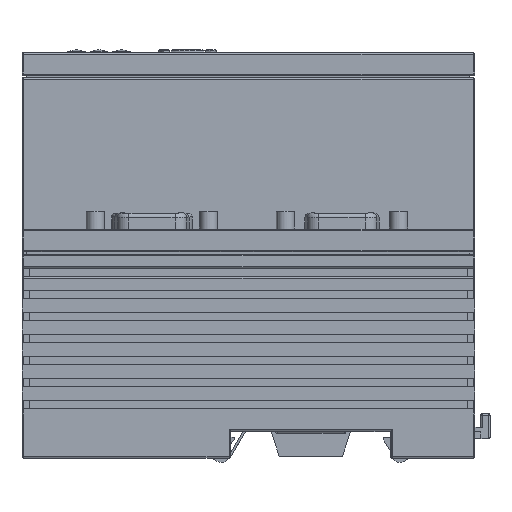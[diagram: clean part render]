
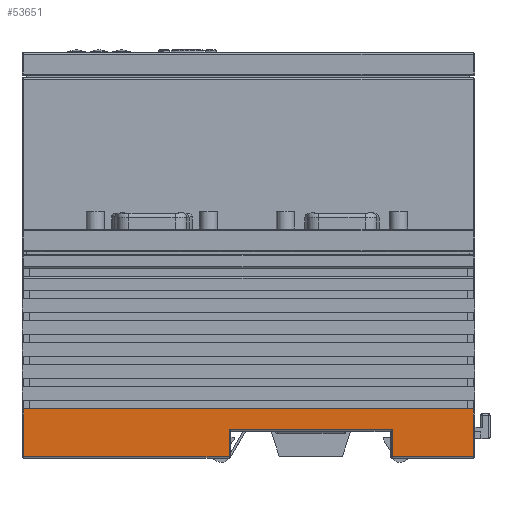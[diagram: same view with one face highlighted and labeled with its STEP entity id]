
A CAD part, left-side view. The second image highlights one B-rep face of the part: STEP entity #53651.
In plain terms, the highlighted planar face has unit normal (-1, 0, 0).
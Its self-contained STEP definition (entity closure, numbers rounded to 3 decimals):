
#4048=FACE_OUTER_BOUND('',#7098,.T.);
#7098=EDGE_LOOP('',(#34699,#34700,#34701,#34702,#34703,#34704,#34705,#34706));
#10208=LINE('',#78832,#15671);
#10215=LINE('',#78854,#15678);
#10219=LINE('',#78868,#15682);
#10254=LINE('',#78976,#15717);
#10262=LINE('',#79003,#15725);
#10264=LINE('',#79008,#15727);
#10266=LINE('',#79012,#15729);
#10268=LINE('',#79017,#15731);
#15671=VECTOR('',#62997,10.);
#15678=VECTOR('',#63020,10.);
#15682=VECTOR('',#63038,10.);
#15717=VECTOR('',#63155,10.);
#15725=VECTOR('',#63193,10.);
#15727=VECTOR('',#63199,10.);
#15729=VECTOR('',#63203,10.);
#15731=VECTOR('',#63209,10.);
#21314=VERTEX_POINT('',#78824);
#21316=VERTEX_POINT('',#78830);
#21321=VERTEX_POINT('',#78846);
#21323=VERTEX_POINT('',#78852);
#21326=VERTEX_POINT('',#78861);
#21358=VERTEX_POINT('',#78974);
#21362=VERTEX_POINT('',#79002);
#21364=VERTEX_POINT('',#79011);
#26298=EDGE_CURVE('',#21316,#21314,#10208,.T.);
#26309=EDGE_CURVE('',#21323,#21321,#10215,.T.);
#26316=EDGE_CURVE('',#21314,#21326,#10219,.T.);
#26371=EDGE_CURVE('',#21358,#21323,#10254,.T.);
#26384=EDGE_CURVE('',#21321,#21362,#10262,.T.);
#26387=EDGE_CURVE('',#21362,#21316,#10264,.T.);
#26389=EDGE_CURVE('',#21326,#21364,#10266,.T.);
#26392=EDGE_CURVE('',#21358,#21364,#10268,.F.);
#34699=ORIENTED_EDGE('',*,*,#26389,.F.);
#34700=ORIENTED_EDGE('',*,*,#26316,.F.);
#34701=ORIENTED_EDGE('',*,*,#26298,.F.);
#34702=ORIENTED_EDGE('',*,*,#26387,.F.);
#34703=ORIENTED_EDGE('',*,*,#26384,.F.);
#34704=ORIENTED_EDGE('',*,*,#26309,.F.);
#34705=ORIENTED_EDGE('',*,*,#26371,.F.);
#34706=ORIENTED_EDGE('',*,*,#26392,.T.);
#48796=PLANE('',#57079);
#53651=ADVANCED_FACE('',(#4048),#48796,.F.);
#57079=AXIS2_PLACEMENT_3D('',#79016,#63207,#63208);
#62997=DIRECTION('',(0.,0.,-1.));
#63020=DIRECTION('',(0.,1.,0.));
#63038=DIRECTION('',(0.,1.,0.));
#63155=DIRECTION('',(0.,0.,-1.));
#63193=DIRECTION('',(0.,0.,1.));
#63199=DIRECTION('',(0.,1.,0.));
#63203=DIRECTION('',(0.,0.,1.));
#63207=DIRECTION('center_axis',(1.,0.,0.));
#63208=DIRECTION('ref_axis',(0.,0.,
-1.));
#63209=DIRECTION('',(0.,-1.,0.));
#78824=CARTESIAN_POINT('',(-68.5,18.05,-6.174));
#78830=CARTESIAN_POINT('',(-68.5,18.05,-0.174));
#78832=CARTESIAN_POINT('',(-68.5,18.05,7.741));
#78846=CARTESIAN_POINT('',(-68.5,-18.05,-6.174));
#78852=CARTESIAN_POINT('',(-68.5,-35.95,-6.174));
#78854=CARTESIAN_POINT('',(-68.5,-11.523,-6.174));
#78861=CARTESIAN_POINT('',(-68.5,63.45,-6.174));
#78868=CARTESIAN_POINT('',(-68.5,15.477,-6.174));
#78974=CARTESIAN_POINT('',(-68.5,-35.95,4.413));
#78976=CARTESIAN_POINT('',(-68.5,-35.95,27.241));
#79002=CARTESIAN_POINT('',(-68.5,-18.05,-0.174));
#79003=CARTESIAN_POINT('',(-68.5,-18.05,4.741));
#79008=CARTESIAN_POINT('',(-68.5,-2.273,-0.174));
#79011=CARTESIAN_POINT('',(-68.5,63.45,4.413));
#79012=CARTESIAN_POINT('',(-68.5,63.45,4.741));
#79016=CARTESIAN_POINT('Origin',(-68.5,13.204,15.956));
#79017=CARTESIAN_POINT('',(-68.5,38.477,4.413));
